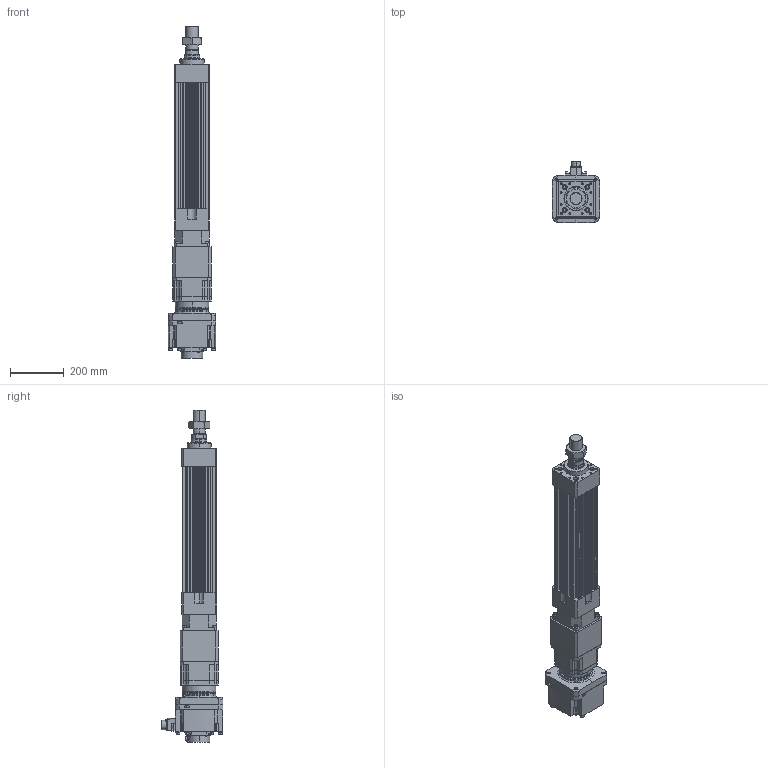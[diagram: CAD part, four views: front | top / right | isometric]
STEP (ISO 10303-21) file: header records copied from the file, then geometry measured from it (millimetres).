
FILE_DESCRIPTION (( 'STEP AP203' ), '1' );
FILE_NAME ('HES130FS(HS)-S250-W020G00-M.STEP', '2023-01-30T11:32:50', ( 'tms' ), ( '' ), 'SwSTEP 2.0', 'SolidWorks 2013', '' );
FILE_SCHEMA (( 'CONFIG_CONTROL_DESIGN' ));
Length unit declared in the file: millimetre
Products named in the file (9): HES130 ROD M ST250; AB1421; HES130FS(HS)-S250-W020G00-M; P0403500801; AB142-003[HG-SR352]; P1301500001; HES130-S250-G142; HG-SR202; M45X1.5P
Assembly tree (8 placements, depth 3):
  HES130FS(HS)-S250-W020G00-M
    HES130-S250-G142
    HES130 ROD M ST250
    M45X1.5P
    AB142-003[HG-SR352]
      AB1421
      P1301500001
      P0403500801
    HG-SR202
Bounding box: 176 x 228.85 x 1237.5 mm (x, y, z)
Volume: 10934195.1 mm3; surface area: 1376818.4 mm2
Topology: 4 solids, 22 shells, 1527 faces, 3928 edges, 2530 vertices
Faces by surface type: cylinder 683, plane 580, cone 182, bspline 76, torus 6
Entity records: 55214 total; most frequent: CARTESIAN_POINT 16756, DIRECTION 8052, ORIENTED_EDGE 7718, EDGE_CURVE 3881, AXIS2_PLACEMENT_3D 3043, VERTEX_POINT 2530, LINE 1966, VECTOR 1966
